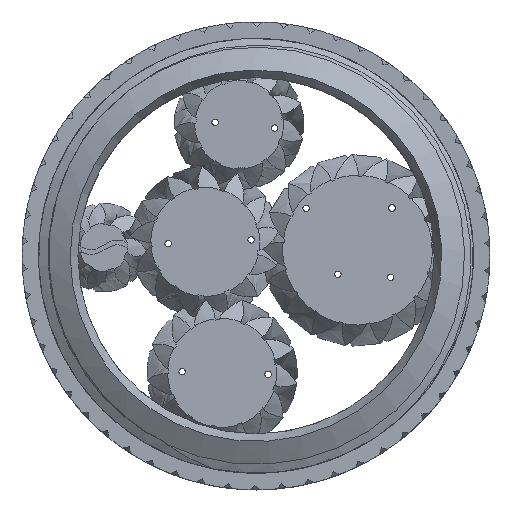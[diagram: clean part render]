
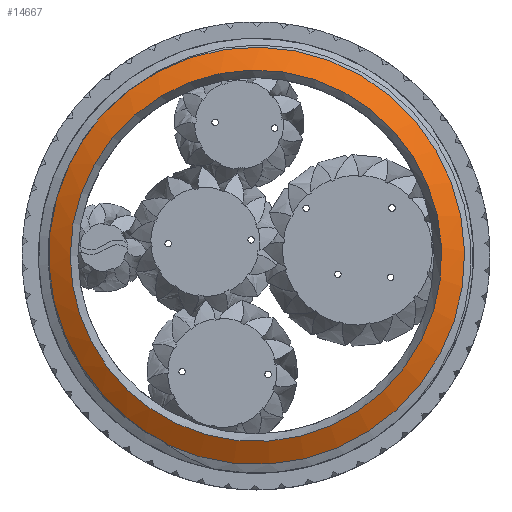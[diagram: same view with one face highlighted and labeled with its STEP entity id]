
A CAD part, top view. The second image highlights one B-rep face of the part: STEP entity #14667.
In plain terms, the highlighted conical face has half-angle 60 degrees and reference radius 31.609 mm.
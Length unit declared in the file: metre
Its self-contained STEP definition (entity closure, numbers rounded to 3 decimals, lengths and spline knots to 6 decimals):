
#1660=CIRCLE('',#15524,0.0355);
#1715=CIRCLE('',#15582,0.031609);
#5869=ORIENTED_EDGE('',*,*,#8356,.T.);
#5870=ORIENTED_EDGE('',*,*,#7830,.T.);
#5871=ORIENTED_EDGE('',*,*,#7827,.T.);
#5872=ORIENTED_EDGE('',*,*,#7834,.F.);
#5873=ORIENTED_EDGE('',*,*,#8681,.F.);
#7827=EDGE_CURVE('',#9708,#9707,#11109,.T.);
#7830=EDGE_CURVE('',#9709,#9708,#11111,.F.);
#7834=EDGE_CURVE('',#9710,#9707,#11115,.F.);
#8356=EDGE_CURVE('',#9710,#9709,#1660,.T.);
#8681=EDGE_CURVE('',#10317,#10317,#1715,.T.);
#9707=VERTEX_POINT('',#106321);
#9708=VERTEX_POINT('',#106337);
#9709=VERTEX_POINT('',#106619);
#9710=VERTEX_POINT('',#106747);
#10317=VERTEX_POINT('',#114755);
#11109=B_SPLINE_CURVE_WITH_KNOTS('',3,(#106322,#106323,#106324,#106325,
#106326,#106327,#106328,#106329,#106330,#106331,#106332,#106333,#106334,
#106335,#106336),.UNSPECIFIED.,.F.,.F.,(4,1,1,1,1,1,1,1,1,1,1,1,4),(0.062539,
0.069559,0.07658,0.083601,0.090621,
0.094132,0.097642,0.101152,0.104663,
0.108173,0.111683,0.115193,0.118704),
 .UNSPECIFIED.);
#11111=B_SPLINE_CURVE_WITH_KNOTS('',3,(#106614,#106615,#106616,#106617,
#106618),.UNSPECIFIED.,.F.,.F.,(4,1,4),(0.43739,0.442476,
0.447562),.UNSPECIFIED.);
#11115=B_SPLINE_CURVE_WITH_KNOTS('',3,(#106748,#106749,#106750,#106751),
 .UNSPECIFIED.,.F.,.F.,(4,4),(0.0075,0.007643),
 .UNSPECIFIED.);
#12642=EDGE_LOOP('',(#5869,#5870,#5871,#5872));
#12643=EDGE_LOOP('',(#5873));
#13618=FACE_BOUND('',#12642,.T.);
#13619=FACE_BOUND('',#12643,.T.);
#13922=CONICAL_SURFACE('',#15583,0.031609,1.047);
#14667=ADVANCED_FACE('',(#13618,#13619),#13922,.T.);
#15524=AXIS2_PLACEMENT_3D('',#111942,#16988,#16989);
#15582=AXIS2_PLACEMENT_3D('',#114754,#17104,#17105);
#15583=AXIS2_PLACEMENT_3D('',#114756,#17106,#17107);
#16988=DIRECTION('',(0.,0.,1.));
#16989=DIRECTION('',(-1.,0.,0.));
#17104=DIRECTION('',(0.,0.,1.));
#17105=DIRECTION('',(-1.,0.,0.));
#17106=DIRECTION('',(0.,0.,-1.));
#17107=DIRECTION('',(1.,0.,0.));
#106321=CARTESIAN_POINT('',(-0.015284,-0.031904,0.062871));
#106322=CARTESIAN_POINT('',(-0.031768,0.015565,0.062871));
#106323=CARTESIAN_POINT('',(-0.032778,0.013454,0.062884));
#106324=CARTESIAN_POINT('',(-0.03438,0.009018,0.062906));
#106325=CARTESIAN_POINT('',(-0.035436,0.00218,0.062931));
#106326=CARTESIAN_POINT('',(-0.035137,-0.004867,0.062948));
#106327=CARTESIAN_POINT('',(-0.033774,-0.010465,0.06296));
#106328=CARTESIAN_POINT('',(-0.032012,-0.014813,0.062964));
#106329=CARTESIAN_POINT('',(-0.030401,-0.01788,0.062966));
#106330=CARTESIAN_POINT('',(-0.028506,-0.020776,0.062964));
#106331=CARTESIAN_POINT('',(-0.026307,-0.023511,0.06296));
#106332=CARTESIAN_POINT('',(-0.023868,-0.026002,0.062951));
#106333=CARTESIAN_POINT('',(-0.021222,-0.028231,0.062937));
#106334=CARTESIAN_POINT('',(-0.018366,-0.030214,0.062915));
#106335=CARTESIAN_POINT('',(-0.01632,-0.031362,0.062895));
#106336=CARTESIAN_POINT('',(-0.015284,-0.031904,0.062871));
#106337=CARTESIAN_POINT('',(-0.031768,0.015565,0.062871));
#106614=CARTESIAN_POINT('',(-0.031768,0.015565,0.062871));
#106615=CARTESIAN_POINT('',(-0.031042,0.017093,0.06286));
#106616=CARTESIAN_POINT('',(-0.029354,0.020074,0.062835));
#106617=CARTESIAN_POINT('',(-0.027276,0.022754,0.062812));
#106618=CARTESIAN_POINT('',(-0.026136,0.024024,0.0628));
#106619=CARTESIAN_POINT('',(-0.026136,0.024024,0.0628));
#106747=CARTESIAN_POINT('',(-0.015338,-0.032016,0.0628));
#106748=CARTESIAN_POINT('',(-0.015284,-0.031904,0.062871));
#106749=CARTESIAN_POINT('',(-0.015302,-0.031941,0.062848));
#106750=CARTESIAN_POINT('',(-0.01532,-0.031978,0.062824));
#106751=CARTESIAN_POINT('',(-0.015338,-0.032016,0.0628));
#111942=CARTESIAN_POINT('',(0.,0.,0.0628));
#114754=CARTESIAN_POINT('',(0.,0.,0.065046));
#114755=CARTESIAN_POINT('',(-0.031609,0.,0.065046));
#114756=CARTESIAN_POINT('',(0.,0.,0.065046));
